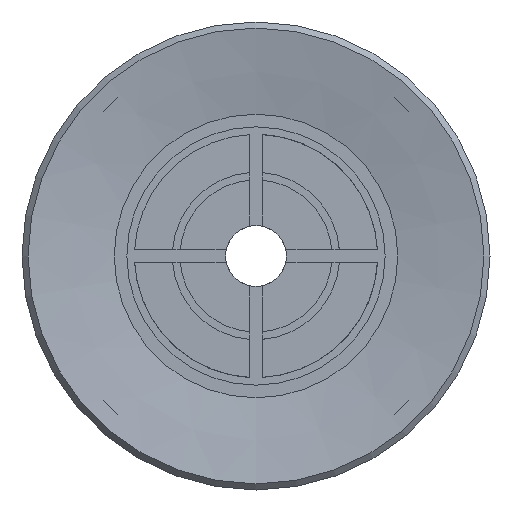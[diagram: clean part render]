
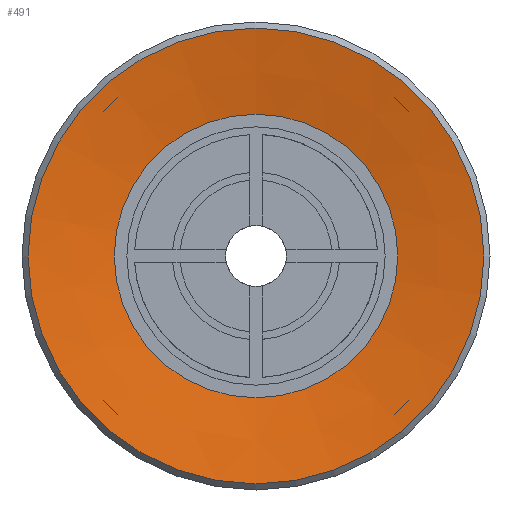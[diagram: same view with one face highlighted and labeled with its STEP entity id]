
A CAD part, front view. The second image highlights one B-rep face of the part: STEP entity #491.
In plain terms, the highlighted conical face has half-angle 80 degrees and reference radius 4.664 mm.
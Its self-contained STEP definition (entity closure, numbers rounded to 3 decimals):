
#491=ADVANCED_FACE('',(#758,#759),#760,.F.);
#758=FACE_BOUND('',#1075,.T.);
#759=FACE_OUTER_BOUND('',#1076,.T.);
#760=CONICAL_SURFACE('',#1077,4.664,1.396);
#1075=EDGE_LOOP('',(#1789));
#1076=EDGE_LOOP('',(#1790));
#1077=AXIS2_PLACEMENT_3D('',#1791,#1792,#1793);
#1789=ORIENTED_EDGE('',*,*,#2191,.F.);
#1790=ORIENTED_EDGE('',*,*,#2258,.T.);
#1791=CARTESIAN_POINT('',(0.0,0.5,0.0));
#1792=DIRECTION('',(-0.0,-1.0,0.));
#1793=DIRECTION('',(0.0,0.,-1.0));
#2191=EDGE_CURVE('',#2532,#2532,#2533,.T.);
#2258=EDGE_CURVE('',#2654,#2654,#2655,.T.);
#2532=VERTEX_POINT('',#3264);
#2533=CIRCLE('',#3265,4.664);
#2654=VERTEX_POINT('',#3472);
#2655=CIRCLE('',#3473,7.5);
#3264=CARTESIAN_POINT('',(0.0,0.5,-4.664));
#3265=AXIS2_PLACEMENT_3D('',#3799,#3800,#3801);
#3472=CARTESIAN_POINT('',(0.0,0.,-7.5));
#3473=AXIS2_PLACEMENT_3D('',#3914,#3915,#3916);
#3799=CARTESIAN_POINT('',(0.0,0.5,0.0));
#3800=DIRECTION('',(0.0,-1.0,0.));
#3801=DIRECTION('',(0.0,0.,-1.0));
#3914=CARTESIAN_POINT('',(0.0,0.0,0.0));
#3915=DIRECTION('',(0.0,-1.0,0.));
#3916=DIRECTION('',(0.0,0.,-1.0));
